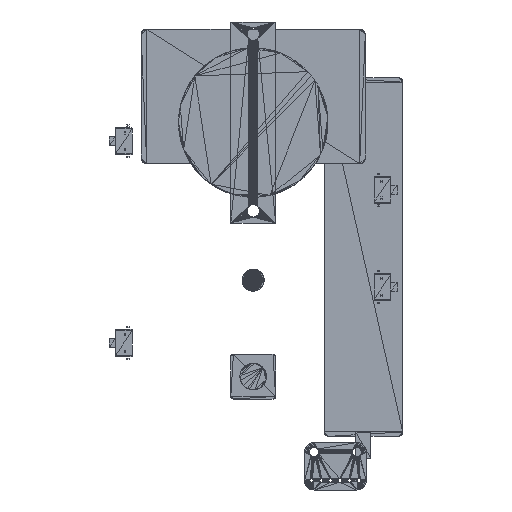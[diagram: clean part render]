
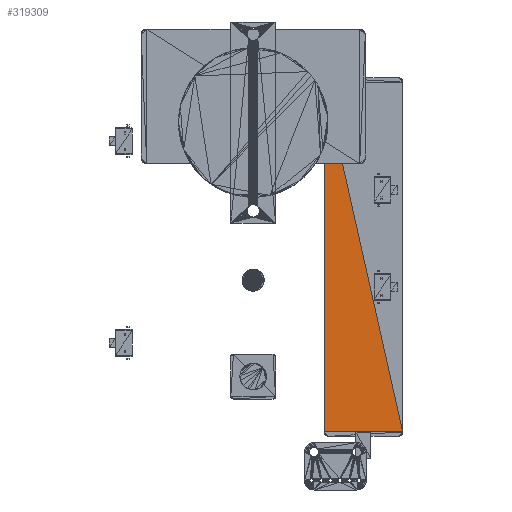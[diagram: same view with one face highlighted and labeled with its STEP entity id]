
A CAD part, front view. The second image highlights one B-rep face of the part: STEP entity #319309.
In plain terms, the highlighted planar face has unit normal (0, -1, 0) as drawn and (0, 0, 1) by its records, which use the part's own axes.
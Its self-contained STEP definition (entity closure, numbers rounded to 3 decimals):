
#309041 = VERTEX_POINT('',#309042);
#309042 = CARTESIAN_POINT('',(-46.8,-10.5,0.2));
#310072 = VERTEX_POINT('',#310073);
#310073 = CARTESIAN_POINT('',(46.8,-10.5,0.2));
#310087 = PLANE('',#310088);
#310088 = AXIS2_PLACEMENT_3D('',#310089,#310090,#310091);
#310089 = CARTESIAN_POINT('',(47.104,-0.115,
    0.2));
#310090 = DIRECTION('',(0.,0.,1.));
#310091 = DIRECTION('',(1.,0.,-0.));
#310683 = VERTEX_POINT('',#310684);
#310684 = CARTESIAN_POINT('',(46.8,10.5,0.2));
#312930 = PLANE('',#312931);
#312931 = AXIS2_PLACEMENT_3D('',#312932,#312933,#312934);
#312932 = CARTESIAN_POINT('',(0.05,-10.5,0.15));
#312933 = DIRECTION('',(-0.,-1.,-0.));
#312934 = DIRECTION('',(0.,0.,-1.));
#313765 = EDGE_CURVE('',#310072,#309041,#313766,.T.);
#313766 = SURFACE_CURVE('',#313767,(#313771,#313778),.PCURVE_S1.);
#313767 = LINE('',#313768,#313769);
#313768 = CARTESIAN_POINT('',(46.8,-10.5,0.2));
#313769 = VECTOR('',#313770,1.);
#313770 = DIRECTION('',(-1.,0.,0.));
#313771 = PCURVE('',#312930,#313772);
#313772 = DEFINITIONAL_REPRESENTATION('',(#313773),#313777);
#313773 = LINE('',#313774,#313775);
#313774 = CARTESIAN_POINT('',(-0.05,46.75));
#313775 = VECTOR('',#313776,1.);
#313776 = DIRECTION('',(0.,-1.));
#313777 = ( GEOMETRIC_REPRESENTATION_CONTEXT(2) 
PARAMETRIC_REPRESENTATION_CONTEXT() REPRESENTATION_CONTEXT('2D SPACE',''
  ) );
#313778 = PCURVE('',#313779,#313784);
#313779 = PLANE('',#313780);
#313780 = AXIS2_PLACEMENT_3D('',#313781,#313782,#313783);
#313781 = CARTESIAN_POINT('',(4.668,-4.668,
    0.2));
#313782 = DIRECTION('',(0.,0.,1.));
#313783 = DIRECTION('',(1.,0.,-0.));
#313784 = DEFINITIONAL_REPRESENTATION('',(#313785),#313788);
#313785 = B_SPLINE_CURVE_WITH_KNOTS('',1,(#313786,#313787),
  .UNSPECIFIED.,.F.,.F.,(2,2),(0.,93.6),
  .PIECEWISE_BEZIER_KNOTS.);
#313786 = CARTESIAN_POINT('',(42.132,-5.832));
#313787 = CARTESIAN_POINT('',(-51.468,-5.832));
#313788 = ( GEOMETRIC_REPRESENTATION_CONTEXT(2) 
PARAMETRIC_REPRESENTATION_CONTEXT() REPRESENTATION_CONTEXT('2D SPACE',''
  ) );
#316153 = PLANE('',#316154);
#316154 = AXIS2_PLACEMENT_3D('',#316155,#316156,#316157);
#316155 = CARTESIAN_POINT('',(-4.668,4.668,
    0.2));
#316156 = DIRECTION('',(0.,0.,1.));
#316157 = DIRECTION('',(1.,0.,-0.));
#318885 = EDGE_CURVE('',#310683,#310072,#318886,.T.);
#318886 = SURFACE_CURVE('',#318887,(#318891,#318898),.PCURVE_S1.);
#318887 = LINE('',#318888,#318889);
#318888 = CARTESIAN_POINT('',(46.8,10.5,0.2));
#318889 = VECTOR('',#318890,1.);
#318890 = DIRECTION('',(0.,-1.,0.));
#318891 = PCURVE('',#310087,#318892);
#318892 = DEFINITIONAL_REPRESENTATION('',(#318893),#318897);
#318893 = LINE('',#318894,#318895);
#318894 = CARTESIAN_POINT('',(-0.304,10.615));
#318895 = VECTOR('',#318896,1.);
#318896 = DIRECTION('',(0.,-1.));
#318897 = ( GEOMETRIC_REPRESENTATION_CONTEXT(2) 
PARAMETRIC_REPRESENTATION_CONTEXT() REPRESENTATION_CONTEXT('2D SPACE',''
  ) );
#318898 = PCURVE('',#313779,#318899);
#318899 = DEFINITIONAL_REPRESENTATION('',(#318900),#318903);
#318900 = B_SPLINE_CURVE_WITH_KNOTS('',1,(#318901,#318902),
  .UNSPECIFIED.,.F.,.F.,(2,2),(0.,21.),.PIECEWISE_BEZIER_KNOTS.);
#318901 = CARTESIAN_POINT('',(42.132,15.168));
#318902 = CARTESIAN_POINT('',(42.132,-5.832));
#318903 = ( GEOMETRIC_REPRESENTATION_CONTEXT(2) 
PARAMETRIC_REPRESENTATION_CONTEXT() REPRESENTATION_CONTEXT('2D SPACE',''
  ) );
#319290 = EDGE_CURVE('',#309041,#310683,#319291,.T.);
#319291 = SURFACE_CURVE('',#319292,(#319296,#319303),.PCURVE_S1.);
#319292 = LINE('',#319293,#319294);
#319293 = CARTESIAN_POINT('',(-46.8,-10.5,0.2));
#319294 = VECTOR('',#319295,1.);
#319295 = DIRECTION('',(0.976,0.219,0.));
#319296 = PCURVE('',#316153,#319297);
#319297 = DEFINITIONAL_REPRESENTATION('',(#319298),#319302);
#319298 = LINE('',#319299,#319300);
#319299 = CARTESIAN_POINT('',(-42.132,-15.168));
#319300 = VECTOR('',#319301,1.);
#319301 = DIRECTION('',(0.976,0.219));
#319302 = ( GEOMETRIC_REPRESENTATION_CONTEXT(2) 
PARAMETRIC_REPRESENTATION_CONTEXT() REPRESENTATION_CONTEXT('2D SPACE',''
  ) );
#319303 = PCURVE('',#313779,#319304);
#319304 = DEFINITIONAL_REPRESENTATION('',(#319305),#319308);
#319305 = B_SPLINE_CURVE_WITH_KNOTS('',1,(#319306,#319307),
  .UNSPECIFIED.,.F.,.F.,(2,2),(0.,95.927),
  .PIECEWISE_BEZIER_KNOTS.);
#319306 = CARTESIAN_POINT('',(-51.468,-5.832));
#319307 = CARTESIAN_POINT('',(42.132,15.168));
#319308 = ( GEOMETRIC_REPRESENTATION_CONTEXT(2) 
PARAMETRIC_REPRESENTATION_CONTEXT() REPRESENTATION_CONTEXT('2D SPACE',''
  ) );
#319309 = ADVANCED_FACE('',(#319310),#313779,.T.);
#319310 = FACE_BOUND('',#319311,.T.);
#319311 = EDGE_LOOP('',(#319312,#319313,#319314));
#319312 = ORIENTED_EDGE('',*,*,#319290,.F.);
#319313 = ORIENTED_EDGE('',*,*,#313765,.F.);
#319314 = ORIENTED_EDGE('',*,*,#318885,.F.);
